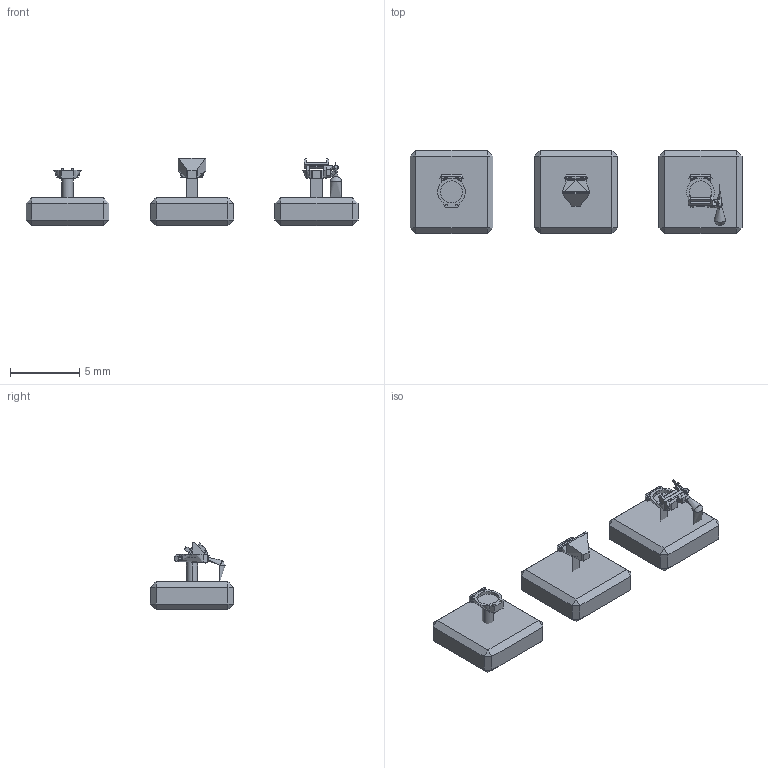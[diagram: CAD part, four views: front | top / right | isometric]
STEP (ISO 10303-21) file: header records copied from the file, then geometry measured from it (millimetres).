
FILE_DESCRIPTION(/* description */ (''),/* implementation_level */ '2;1');
FILE_NAME(/* name */ 'MARK8G~1',/* time_stamp */ '2021-04-27T21:55:47+02:00',/* author */ (''),/* organization */ (''),/* preprocessor_version */ 'ST-DEVELOPER v16.5',/* originating_system */ '',/* authorisation */ '');
FILE_SCHEMA (('CONFIG_CONTROL_DESIGN'));
Length unit declared in the file: millimetre
Products named in the file (1): Document
Bounding box: 24 x 6 x 4.85 mm (x, y, z)
Volume: 283.1 mm3; surface area: 512.3 mm2
Topology: 6 solids, 6 shells, 461 faces, 1204 edges, 731 vertices
Faces by surface type: plane 273, cylinder 94, bspline 94
Entity records: 13168 total; most frequent: CARTESIAN_POINT 5859, ORIENTED_EDGE 2338, EDGE_CURVE 1169, VERTEX_POINT 731, EDGE_LOOP 478, B_SPLINE_CURVE_WITH_KNOTS 473, ADVANCED_FACE 461, FACE_OUTER_BOUND 461
